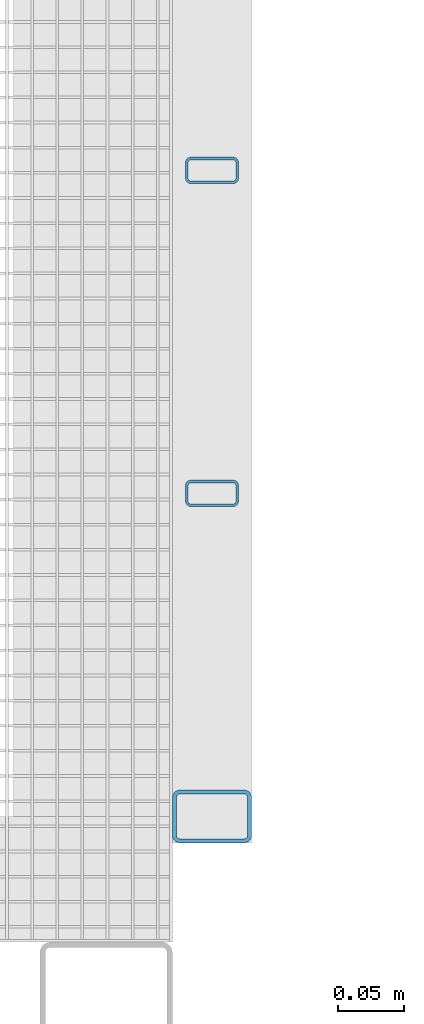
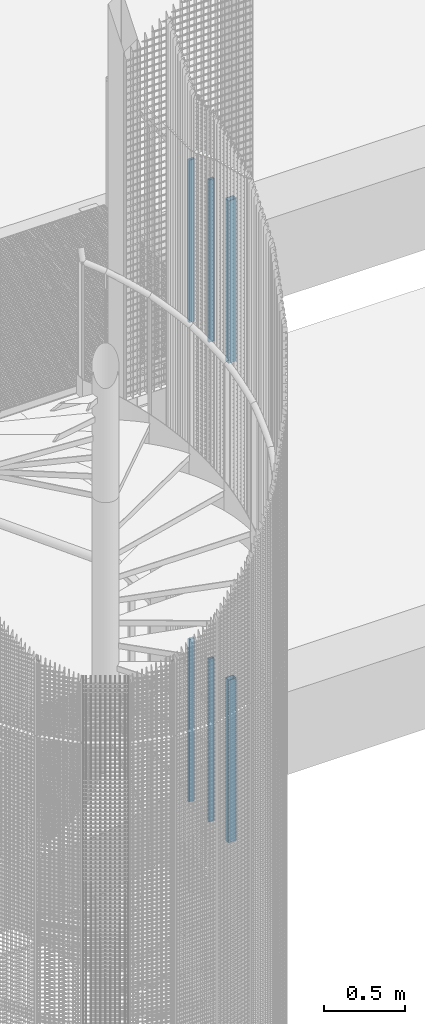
# One storey, part 33 of 1148: 6 columns, 6 elements without a shape of their own.
"""IFC2X3 building model written with IfcOpenShell, lengths in millimetres."""

import ifcopenshell
import ifcopenshell.guid

model = None  # the IFC model being written
_history = None  # IfcOwnerHistory: only IFC2X3 demands one
_inside = {}  # id of a spatial element -> (the spatial element, [elements in it])
_under = {}  # id of a project, library or spatial element -> (it, [spatial elements below it])
_declared = {}  # id of a project -> (the project, [libraries it declares])
_typed = {}  # id of a type object -> (the type object, [elements of that type])
_made_of = {}  # id of a material, layer set ... -> (it, [elements and type objects made of it])


def new_model(schema):
    """Start an empty IFC model of exactly this schema.

    Asked for "IFC4X3", IfcOpenShell would pick the latest addendum, in which some entities
    have other attributes; the version numbers below select the first issue.
    IFC2X3 requires an IfcOwnerHistory on every rooted entity: one is made here for all.
    """
    global model, _history
    if schema == "IFC4X3":
        model = ifcopenshell.file(schema_version=(4, 3, 0, 0))
    else:
        model = ifcopenshell.file(schema=schema)
    _inside.clear()
    _under.clear()
    _declared.clear()
    _typed.clear()
    _made_of.clear()
    _history = None
    if model.schema == "IFC2X3":
        org = make("IfcOrganization", Name="unknown")
        user = make(
            "IfcPersonAndOrganization",
            ThePerson=make("IfcPerson", FamilyName="unknown"),
            TheOrganization=org,
        )
        app = make(
            "IfcApplication",
            ApplicationDeveloper=org,
            Version="unknown",
            ApplicationFullName="unknown",
            ApplicationIdentifier="unknown",
        )
        _history = make(
            "IfcOwnerHistory",
            OwningUser=user,
            OwningApplication=app,
            ChangeAction="ADDED",
            CreationDate=0,
        )
    return model


def make(cls, **values):
    """One entity of the class cls with the attributes given. An attribute that is None is left unset."""
    return model.create_entity(
        cls, **{name: value for name, value in values.items() if value is not None}
    )


def rooted(cls, **values):
    """An entity with a GlobalId (a new one), such as an element, a storey or a relation."""
    return make(cls, GlobalId=ifcopenshell.guid.new(), OwnerHistory=_history, **values)


def si_unit(unit_type, name, prefix=None):
    """IfcSIUnit, for example si_unit("LENGTHUNIT", "METRE", prefix="MILLI")."""
    return make("IfcSIUnit", UnitType=unit_type, Prefix=prefix, Name=name)


def assignment(units):
    """IfcUnitAssignment: the units of a project."""
    return None if units is None else make("IfcUnitAssignment", Units=units)


def point(xyz):
    """IfcCartesianPoint."""
    return None if xyz is None else make("IfcCartesianPoint", Coordinates=xyz)


def direction(xyz):
    """IfcDirection."""
    return None if xyz is None else make("IfcDirection", DirectionRatios=xyz)


def frame(location, z_axis=None, x_axis=None):
    """IfcAxis2Placement3D, a coordinate frame: its origin and axes. An axis left out is left unset."""
    return make(
        "IfcAxis2Placement3D",
        Location=point(location),
        Axis=direction(z_axis),
        RefDirection=direction(x_axis),
    )


def frame_2d(location, x_axis=None):
    """IfcAxis2Placement2D, a coordinate frame in the plane: its origin and x axis."""
    return make(
        "IfcAxis2Placement2D", Location=point(location), RefDirection=direction(x_axis)
    )


def origin_with_axes():
    """The frame at (0, 0, 0) with the z axis (0, 0, 1) and the x axis (1, 0, 0) written out."""
    return frame((0.0, 0.0, 0.0), z_axis=(0.0, 0.0, 1.0), x_axis=(1.0, 0.0, 0.0))


def origin_2d_with_axis():
    """The frame at (0, 0) in the plane with the x axis (1, 0) written out."""
    return frame_2d((0.0, 0.0), x_axis=(1.0, 0.0))


def place(relative_to, where):
    """IfcLocalPlacement: puts the frame where relative to a parent placement (None: the world)."""
    return make(
        "IfcLocalPlacement", PlacementRelTo=relative_to, RelativePlacement=where
    )


def context(
    kind, dimensions, precision=None, world=None, true_north=None, identifier=None
):
    """IfcGeometricRepresentationContext, for example the 3D "Model" context."""
    return make(
        "IfcGeometricRepresentationContext",
        ContextIdentifier=identifier,
        ContextType=kind,
        CoordinateSpaceDimension=dimensions,
        Precision=precision,
        WorldCoordinateSystem=world,
        TrueNorth=true_north,
    )


def subcontext(parent, identifier, kind, view, scale=None):
    """IfcGeometricRepresentationSubContext, for example "Body" below "Model"."""
    return make(
        "IfcGeometricRepresentationSubContext",
        ContextIdentifier=identifier,
        ContextType=kind,
        ParentContext=parent,
        TargetScale=scale,
        TargetView=view,
    )


def project(units=None, contexts=None):
    """IfcProject with its units and contexts."""
    return rooted(
        "IfcProject",
        Name="project",
        RepresentationContexts=contexts,
        UnitsInContext=assignment(units),
    )


def spatial(cls, under=None, at=None, **own):
    """A site, building, storey or space (cls), placed at a placement, below another one or the project."""
    s = rooted(cls, ObjectPlacement=at, **own)
    if under is not None:
        _under.setdefault(under.id(), (under, []))[1].append(s)
    return s


def profile(cls, at=None, kind="AREA", **sizes):
    """A parametric profile (cls). Its sizes go by their IFC names, for example OverallWidth=200.0."""
    return make(cls, ProfileType=kind, Position=at, **sizes)


def hollow_rectangle(**sizes):
    """IfcRectangleHollowProfileDef."""
    return profile("IfcRectangleHollowProfileDef", **sizes)


def extrude(swept, where, along, depth):
    """IfcExtrudedAreaSolid: the profile swept, set in the frame where, extruded along a direction by depth."""
    return make(
        "IfcExtrudedAreaSolid",
        SweptArea=swept,
        Position=where,
        ExtrudedDirection=direction(along),
        Depth=depth,
    )


def shape(context_of_items, identifier, shape_type, items):
    """IfcShapeRepresentation: the items that make up one representation, for example the "Body"."""
    return make(
        "IfcShapeRepresentation",
        ContextOfItems=context_of_items,
        RepresentationIdentifier=identifier,
        RepresentationType=shape_type,
        Items=items,
    )


def material(Name=None, Category=None):
    """IfcMaterial."""
    return make("IfcMaterial", Name=Name, Category=Category)


def made_of(thing, what):
    """Note that an element or type object is made of a material, layer set ...; save() writes the relation."""
    if what is not None:
        _made_of.setdefault(what.id(), (what, []))[1].append(thing)
    return thing


def type_object(cls, material=None, **own):
    """A type object (cls), such as IfcWallType, which elements share."""
    return made_of(rooted(cls, **own), material)


def element(
    cls,
    number,
    at=None,
    inside=None,
    cuts=None,
    type_object=None,
    material=None,
    context=None,
    identifier="Body",
    shape_type=None,
    held_by="IfcProductDefinitionShape",
    body=None,
    shapes=None,
    **own,
):
    """One element of the class cls, such as IfcWall. Its Tag is "e" and its number.

    at: its placement. inside: the storey or other place that contains it. cuts: it is an
    opening in that element (IfcRelVoidsElement). A single representation is given by context,
    identifier, shape_type and body (its items); several are given by shapes. held_by: the class
    of the entity that holds the representations. save() writes the other relations.
    """
    e = rooted(cls, Tag="e%d" % number, ObjectPlacement=at, **own)
    if body is not None:
        shapes = [shape(context, identifier, shape_type, body)]
    if shapes is not None:
        e.Representation = make(held_by, Representations=shapes)
    if inside is not None:
        _inside.setdefault(inside.id(), (inside, []))[1].append(e)
    if cuts is not None:
        rooted(
            "IfcRelVoidsElement", RelatingBuildingElement=cuts, RelatedOpeningElement=e
        )
    if type_object is not None:
        _typed.setdefault(type_object.id(), (type_object, []))[1].append(e)
    return made_of(e, material)


def aggregate(whole, parts):
    """IfcRelAggregates: a whole, such as a stair, and the parts it consists of."""
    return rooted("IfcRelAggregates", RelatingObject=whole, RelatedObjects=parts)


def save(model, path):
    """Write the relations noted so far, then the file.

    IfcRelAggregates (storeys below a building ...), IfcRelContainedInSpatialStructure (elements
    in a storey), IfcRelDefinesByType, IfcRelAssociatesMaterial and IfcRelDeclares: one each for
    every whole, place, type object, material and project.
    """
    for whole, parts in _under.values():
        aggregate(whole, parts)
    for where, things in _inside.values():
        rooted(
            "IfcRelContainedInSpatialStructure",
            RelatedElements=things,
            RelatingStructure=where,
        )
    for kind, things in _typed.values():
        rooted("IfcRelDefinesByType", RelatedObjects=things, RelatingType=kind)
    for what, things in _made_of.values():
        rooted("IfcRelAssociatesMaterial", RelatedObjects=things, RelatingMaterial=what)
    for by, libraries in _declared.values():
        rooted("IfcRelDeclares", RelatingContext=by, RelatedDefinitions=libraries)
    model.write(path)


model = new_model("IFC2X3")

# Units and contexts
model_context = context("Model", 3, precision=1e-05, world=origin_with_axes())
body_context = subcontext(model_context, "Body", "Model", "MODEL_VIEW")
ifc_project = project(units=[si_unit("LENGTHUNIT", "METRE", prefix="MILLI"), si_unit("AREAUNIT", "SQUARE_METRE"), si_unit("VOLUMEUNIT", "CUBIC_METRE"), si_unit("MASSUNIT", "GRAM", prefix="KILO"), si_unit("TIMEUNIT", "SECOND"), si_unit("PLANEANGLEUNIT", "RADIAN"), si_unit("SOLIDANGLEUNIT", "STERADIAN"), si_unit("THERMODYNAMICTEMPERATUREUNIT", "DEGREE_CELSIUS"), si_unit("LUMINOUSINTENSITYUNIT", "LUMEN")], contexts=[model_context])

# Site, building, storey
site_placement = place(None, origin_with_axes())
site = spatial("IfcSite", under=ifc_project, at=site_placement, Name="Undefined", CompositionType="ELEMENT")
building_placement = place(site_placement, origin_with_axes())
building = spatial("IfcBuilding", under=site, at=building_placement, Name="Undefined", CompositionType="ELEMENT")
storey_placement = place(building_placement, origin_with_axes())
storey = spatial("IfcBuildingStorey", under=building, at=storey_placement, Name="Undefined", CompositionType="ELEMENT", Elevation=0.0)

# Assembly, column
assembly_1_placement = place(storey_placement, origin_with_axes())
assembly_1 = element("IfcElementAssembly", 1, at=assembly_1_placement, inside=storey, Name="STANCHION", AssemblyPlace="NOTDEFINED", PredefinedType="NOTDEFINED")
ifc_material = material(Name="Undefined/FE510D")
column_type_1 = type_object("IfcColumnType", Name="TUBE-R-40*20*2", PredefinedType="NOTDEFINED")
column_1_placement = place(assembly_1_placement, frame((1580.0682041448, 1683.34979617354, 9820.0), z_axis=(0.0, 0.0, 1.0), x_axis=(0.999999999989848, 4.50600000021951e-06, 0.0)))
column_1 = element("IfcColumn", 2, at=column_1_placement, type_object=column_type_1, material=ifc_material, Name="STANCHION", context=body_context, shape_type="SweptSolid", body=[
    extrude(hollow_rectangle(XDim=20.0, YDim=40.0, WallThickness=2.0, InnerFilletRadius=2.0, OuterFilletRadius=4.0, at=origin_2d_with_axis()), frame((0.0, 0.0, 1219.99999999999), z_axis=(0.0, 0.0, -1.0), x_axis=(0.0, 1.0, 0.0)), (0.0, 0.0, 1.0), 1220.0),
])
aggregate(assembly_1, [column_1])

assembly_2_placement = place(storey_placement, origin_with_axes())
assembly_2 = element("IfcElementAssembly", 3, at=assembly_2_placement, inside=storey, Name="STANCHION", AssemblyPlace="NOTDEFINED", PredefinedType="NOTDEFINED")
column_2_placement = place(assembly_2_placement, frame((1580.06930437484, 1439.17979617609, 9820.0), z_axis=(0.0, 0.0, 1.0), x_axis=(0.999999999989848, 4.50600000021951e-06, 0.0)))
column_2 = element("IfcColumn", 4, at=column_2_placement, type_object=column_type_1, material=ifc_material, Name="STANCHION", context=body_context, shape_type="SweptSolid", body=[
    extrude(hollow_rectangle(XDim=20.0, YDim=40.0, WallThickness=2.0, InnerFilletRadius=2.0, OuterFilletRadius=4.0, at=origin_2d_with_axis()), frame((0.0, 0.0, 1219.99999999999), z_axis=(0.0, 0.0, -1.0), x_axis=(0.0, 1.0, 0.0)), (0.0, 0.0, 1.0), 1220.0),
])
aggregate(assembly_2, [column_2])

assembly_3_placement = place(storey_placement, origin_with_axes())
assembly_3 = element("IfcElementAssembly", 5, at=assembly_3_placement, inside=storey, Name="STANCHION", AssemblyPlace="NOTDEFINED", PredefinedType="NOTDEFINED")
column_3_placement = place(assembly_3_placement, frame((1580.0682041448, 1683.34979617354, 6220.0), z_axis=(0.0, 0.0, 1.0), x_axis=(0.999999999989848, 4.50600000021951e-06, 0.0)))
column_3 = element("IfcColumn", 6, at=column_3_placement, type_object=column_type_1, material=ifc_material, Name="STANCHION", context=body_context, shape_type="SweptSolid", body=[
    extrude(hollow_rectangle(XDim=20.0, YDim=40.0, WallThickness=2.0, InnerFilletRadius=2.0, OuterFilletRadius=4.0, at=origin_2d_with_axis()), frame((0.0, 0.0, 1219.99999999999), z_axis=(0.0, 0.0, -1.0), x_axis=(0.0, 1.0, 0.0)), (0.0, 0.0, 1.0), 1220.0),
])
aggregate(assembly_3, [column_3])

assembly_4_placement = place(storey_placement, origin_with_axes())
assembly_4 = element("IfcElementAssembly", 7, at=assembly_4_placement, inside=storey, Name="STANCHION", AssemblyPlace="NOTDEFINED", PredefinedType="NOTDEFINED")
column_4_placement = place(assembly_4_placement, frame((1580.06930437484, 1439.17979617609, 6220.0), z_axis=(0.0, 0.0, 1.0), x_axis=(0.999999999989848, 4.50600000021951e-06, 0.0)))
column_4 = element("IfcColumn", 8, at=column_4_placement, type_object=column_type_1, material=ifc_material, Name="STANCHION", context=body_context, shape_type="SweptSolid", body=[
    extrude(hollow_rectangle(XDim=20.0, YDim=40.0, WallThickness=2.0, InnerFilletRadius=2.0, OuterFilletRadius=4.0, at=origin_2d_with_axis()), frame((0.0, 0.0, 1219.99999999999), z_axis=(0.0, 0.0, -1.0), x_axis=(0.0, 1.0, 0.0)), (0.0, 0.0, 1.0), 1220.0),
])
aggregate(assembly_4, [column_4])

assembly_5_placement = place(storey_placement, origin_with_axes())
assembly_5 = element("IfcElementAssembly", 9, at=assembly_5_placement, inside=storey, Name="STANCHION", AssemblyPlace="NOTDEFINED", PredefinedType="NOTDEFINED")
column_type_2 = type_object("IfcColumnType", Name="TUBE-R-60*40*3", PredefinedType="NOTDEFINED")
column_5_placement = place(assembly_5_placement, frame((1580.07043456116, 1195.01007484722, 9820.0), z_axis=(0.0, 0.0, 1.0), x_axis=(0.999999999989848, 4.50600000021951e-06, 0.0)))
column_5 = element("IfcColumn", 10, at=column_5_placement, type_object=column_type_2, material=ifc_material, Name="STANCHION", context=body_context, shape_type="SweptSolid", body=[
    extrude(hollow_rectangle(XDim=40.0, YDim=60.0, WallThickness=3.0, InnerFilletRadius=3.0, OuterFilletRadius=6.0, at=origin_2d_with_axis()), frame((0.0, 0.0, 1219.99999999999), z_axis=(0.0, 0.0, -1.0), x_axis=(0.0, 1.0, 0.0)), (0.0, 0.0, 1.0), 1220.0),
])
aggregate(assembly_5, [column_5])

assembly_6_placement = place(storey_placement, origin_with_axes())
assembly_6 = element("IfcElementAssembly", 11, at=assembly_6_placement, inside=storey, Name="STANCHION", AssemblyPlace="NOTDEFINED", PredefinedType="NOTDEFINED")
column_6_placement = place(assembly_6_placement, frame((1580.07043456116, 1195.01007484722, 6220.0), z_axis=(0.0, 0.0, 1.0), x_axis=(0.999999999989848, 4.50600000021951e-06, 0.0)))
column_6 = element("IfcColumn", 12, at=column_6_placement, type_object=column_type_2, material=ifc_material, Name="STANCHION", context=body_context, shape_type="SweptSolid", body=[
    extrude(hollow_rectangle(XDim=40.0, YDim=60.0, WallThickness=3.0, InnerFilletRadius=3.0, OuterFilletRadius=6.0, at=origin_2d_with_axis()), frame((0.0, 0.0, 1219.99999999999), z_axis=(0.0, 0.0, -1.0), x_axis=(0.0, 1.0, 0.0)), (0.0, 0.0, 1.0), 1220.0),
])
aggregate(assembly_6, [column_6])

save(model, "model.ifc")
